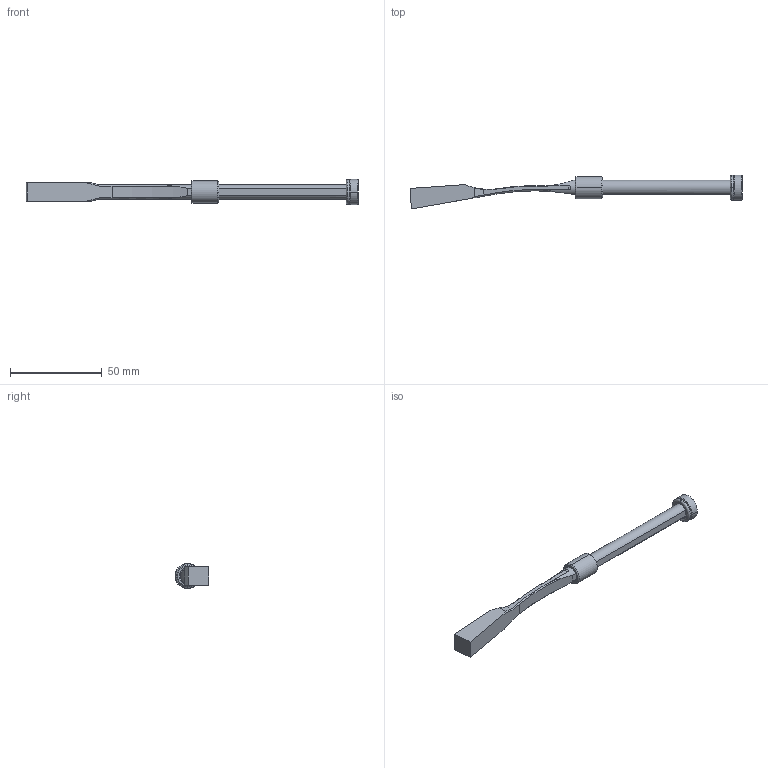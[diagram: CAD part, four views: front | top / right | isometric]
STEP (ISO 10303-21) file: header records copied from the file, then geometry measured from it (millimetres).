
FILE_DESCRIPTION (( 'STEP AP214' ), '1' );
FILE_NAME ('PW081030.STEP', '2020-02-10T08:45:36', ( '' ), ( '' ), 'SwSTEP 2.0', 'SolidWorks 2018', '' );
FILE_SCHEMA (( 'AUTOMOTIVE_DESIGN' ));
Length unit declared in the file: millimetre
Products named in the file (6): 9CS081215; 1DIN7984516_DIN 7984 - M5 x 16 --- 16C; PW081030; 9FP1406M5; 9PW081030; 3JT9.5X2X13.5
Assembly tree (5 placements, depth 2):
  PW081030
    9PW081030
    9CS081215
    9FP1406M5
    3JT9.5X2X13.5
    1DIN7984516_DIN 7984 - M5 x 16 --- 16C
Bounding box: 180.5 x 18.47 x 13.8 mm (x, y, z)
Volume: 10618.3 mm3; surface area: 7584.3 mm2
Topology: 5 solids, 5 shells, 107 faces, 240 edges, 142 vertices
Faces by surface type: plane 37, cone 28, cylinder 24, torus 16, bspline 2
Entity records: 3550 total; most frequent: CARTESIAN_POINT 659, DIRECTION 552, ORIENTED_EDGE 472, EDGE_CURVE 236, AXIS2_PLACEMENT_3D 221, VERTEX_POINT 142, EDGE_LOOP 116, LINE 110
